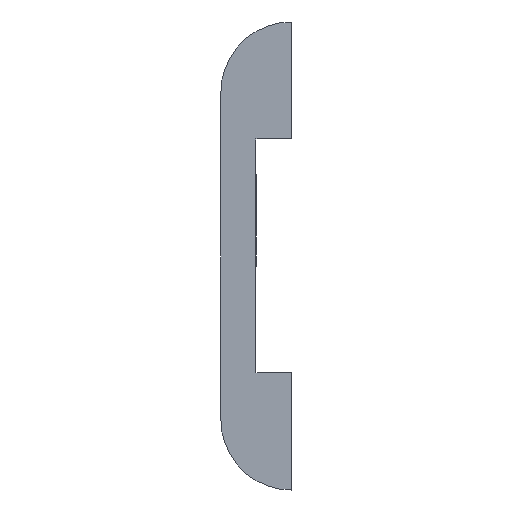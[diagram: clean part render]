
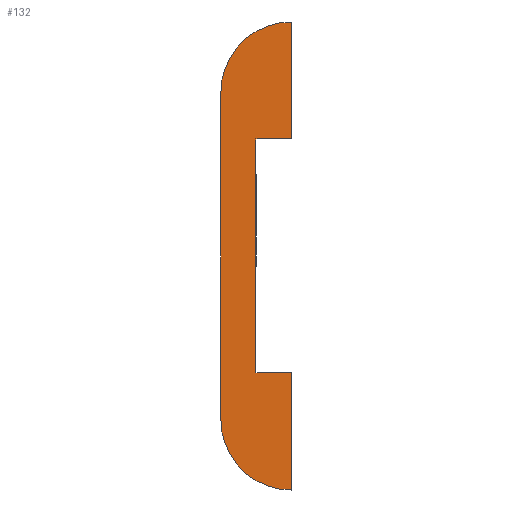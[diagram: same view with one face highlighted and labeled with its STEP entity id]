
A CAD part, left-side view. The second image highlights one B-rep face of the part: STEP entity #132.
In plain terms, the highlighted planar face has unit normal (-1, 0, 0).
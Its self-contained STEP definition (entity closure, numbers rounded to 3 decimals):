
#3 = CARTESIAN_POINT ( 'NONE',  ( -8.064, -0.863, 102.781 ) ) ;
#4 = DIRECTION ( 'NONE',  ( -1., 0., 0. ) ) ;
#5 = CARTESIAN_POINT ( 'NONE',  ( -8.064, 2.137, 115.781 ) ) ;
#7 = CARTESIAN_POINT ( 'NONE',  ( -8.064, -0.863, 119.781 ) ) ;
#10 = DIRECTION ( 'NONE',  ( 0., 0., -1. ) ) ;
#14 = CARTESIAN_POINT ( 'NONE',  ( -8.064, -0.863, 114.781 ) ) ;
#16 = VERTEX_POINT ( 'NONE', #271 ) ;
#21 = CARTESIAN_POINT ( 'NONE',  ( -8.064, 2.137, 116.781 ) ) ;
#56 = VECTOR ( 'NONE', #543, 1000. ) ;
#58 = DIRECTION ( 'NONE',  ( -1., 0., 0. ) ) ;
#68 = VERTEX_POINT ( 'NONE', #447 ) ;
#81 = DIRECTION ( 'NONE',  ( 0., 0., 1. ) ) ;
#93 = CARTESIAN_POINT ( 'NONE',  ( -8.064, -0.863, 116.781 ) ) ;
#94 = EDGE_CURVE ( 'NONE', #579, #68, #224, .T. ) ;
#97 = CARTESIAN_POINT ( 'NONE',  ( -8.064, 0.637, 114.781 ) ) ;
#110 = LINE ( 'NONE', #21, #252 ) ;
#119 = CARTESIAN_POINT ( 'NONE',  ( -8.064, 2.137, 115.781 ) ) ;
#120 = DIRECTION ( 'NONE',  ( 0., 0., 1. ) ) ;
#132 = ADVANCED_FACE ( 'NONE', ( #457 ), #410, .T. ) ;
#166 = VERTEX_POINT ( 'NONE', #14 ) ;
#167 = VERTEX_POINT ( 'NONE', #7 ) ;
#172 = CIRCLE ( 'NONE', #253, 3. ) ;
#174 = CARTESIAN_POINT ( 'NONE',  ( -8.064, 0.637, 104.781 ) ) ;
#185 = LINE ( 'NONE', #403, #56 ) ;
#190 = VECTOR ( 'NONE', #120, 1000. ) ;
#202 = ORIENTED_EDGE ( 'NONE', *, *, #508, .T. ) ;
#219 = VERTEX_POINT ( 'NONE', #418 ) ;
#224 = LINE ( 'NONE', #583, #525 ) ;
#235 = CARTESIAN_POINT ( 'NONE',  ( -8.064, 2.137, 103.781 ) ) ;
#243 = ORIENTED_EDGE ( 'NONE', *, *, #277, .T. ) ;
#250 = ORIENTED_EDGE ( 'NONE', *, *, #499, .T. ) ;
#252 = VECTOR ( 'NONE', #300, 1000. ) ;
#253 = AXIS2_PLACEMENT_3D ( 'NONE', #554, #58, #341 ) ;
#260 = ORIENTED_EDGE ( 'NONE', *, *, #279, .T. ) ;
#266 = AXIS2_PLACEMENT_3D ( 'NONE', #93, #4, #493 ) ;
#271 = CARTESIAN_POINT ( 'NONE',  ( -8.064, -0.863, 99.781 ) ) ;
#277 = EDGE_CURVE ( 'NONE', #68, #16, #172, .T. ) ;
#279 = EDGE_CURVE ( 'NONE', #398, #463, #110, .T. ) ;
#287 = CARTESIAN_POINT ( 'NONE',  ( -8.064, 0.637, 104.781 ) ) ;
#292 = VECTOR ( 'NONE', #495, 1000. ) ;
#293 = VECTOR ( 'NONE', #449, 1000. ) ;
#300 = DIRECTION ( 'NONE',  ( 0., 0., -1. ) ) ;
#305 = ORIENTED_EDGE ( 'NONE', *, *, #399, .T. ) ;
#307 = AXIS2_PLACEMENT_3D ( 'NONE', #3, #370, #550 ) ;
#312 = ORIENTED_EDGE ( 'NONE', *, *, #549, .T. ) ;
#318 = DIRECTION ( 'NONE',  ( 0., 0., -1. ) ) ;
#319 = LINE ( 'NONE', #460, #292 ) ;
#323 = VECTOR ( 'NONE', #10, 1000. ) ;
#341 = DIRECTION ( 'NONE',  ( 0., 0., 1. ) ) ;
#344 = CARTESIAN_POINT ( 'NONE',  ( -8.064, -0.863, 114.781 ) ) ;
#348 = VECTOR ( 'NONE', #81, 1000. ) ;
#354 = LINE ( 'NONE', #344, #190 ) ;
#357 = LINE ( 'NONE', #5, #323 ) ;
#361 = EDGE_CURVE ( 'NONE', #166, #167, #354, .T. ) ;
#370 = DIRECTION ( 'NONE',  ( -1., 0., 0. ) ) ;
#390 = ORIENTED_EDGE ( 'NONE', *, *, #361, .T. ) ;
#398 = VERTEX_POINT ( 'NONE', #529 ) ;
#399 = EDGE_CURVE ( 'NONE', #463, #579, #357, .T. ) ;
#403 = CARTESIAN_POINT ( 'NONE',  ( -8.064, 0.637, 114.781 ) ) ;
#410 = PLANE ( 'NONE',  #307 ) ;
#411 = CARTESIAN_POINT ( 'NONE',  ( -8.064, -0.863, 104.781 ) ) ;
#417 = CIRCLE ( 'NONE', #266, 3. ) ;
#418 = CARTESIAN_POINT ( 'NONE',  ( -8.064, -0.863, 104.781 ) ) ;
#421 = LINE ( 'NONE', #174, #348 ) ;
#427 = VERTEX_POINT ( 'NONE', #97 ) ;
#435 = VERTEX_POINT ( 'NONE', #287 ) ;
#443 = EDGE_CURVE ( 'NONE', #435, #427, #421, .T. ) ;
#447 = CARTESIAN_POINT ( 'NONE',  ( -8.064, 2.137, 102.781 ) ) ;
#449 = DIRECTION ( 'NONE',  ( 0., 1., 0. ) ) ;
#457 = FACE_OUTER_BOUND ( 'NONE', #530, .T. ) ;
#460 = CARTESIAN_POINT ( 'NONE',  ( -8.064, -0.863, 99.781 ) ) ;
#463 = VERTEX_POINT ( 'NONE', #119 ) ;
#489 = ORIENTED_EDGE ( 'NONE', *, *, #94, .T. ) ;
#493 = DIRECTION ( 'NONE',  ( 0., 0., 1. ) ) ;
#495 = DIRECTION ( 'NONE',  ( 0., 0., 1. ) ) ;
#497 = LINE ( 'NONE', #411, #293 ) ;
#499 = EDGE_CURVE ( 'NONE', #16, #219, #319, .T. ) ;
#508 = EDGE_CURVE ( 'NONE', #219, #435, #497, .T. ) ;
#509 = ORIENTED_EDGE ( 'NONE', *, *, #521, .T. ) ;
#517 = ORIENTED_EDGE ( 'NONE', *, *, #443, .T. ) ;
#521 = EDGE_CURVE ( 'NONE', #167, #398, #417, .T. ) ;
#525 = VECTOR ( 'NONE', #318, 1000. ) ;
#529 = CARTESIAN_POINT ( 'NONE',  ( -8.064, 2.137, 116.781 ) ) ;
#530 = EDGE_LOOP ( 'NONE', ( #243, #250, #202, #517, #312, #390, #509, #260, #305, #489 ) ) ;
#543 = DIRECTION ( 'NONE',  ( 0., -1., 0. ) ) ;
#549 = EDGE_CURVE ( 'NONE', #427, #166, #185, .T. ) ;
#550 = DIRECTION ( 'NONE',  ( 0., 0., 1. ) ) ;
#554 = CARTESIAN_POINT ( 'NONE',  ( -8.064, -0.863, 102.781 ) ) ;
#579 = VERTEX_POINT ( 'NONE', #235 ) ;
#583 = CARTESIAN_POINT ( 'NONE',  ( -8.064, 2.137, 103.781 ) ) ;
